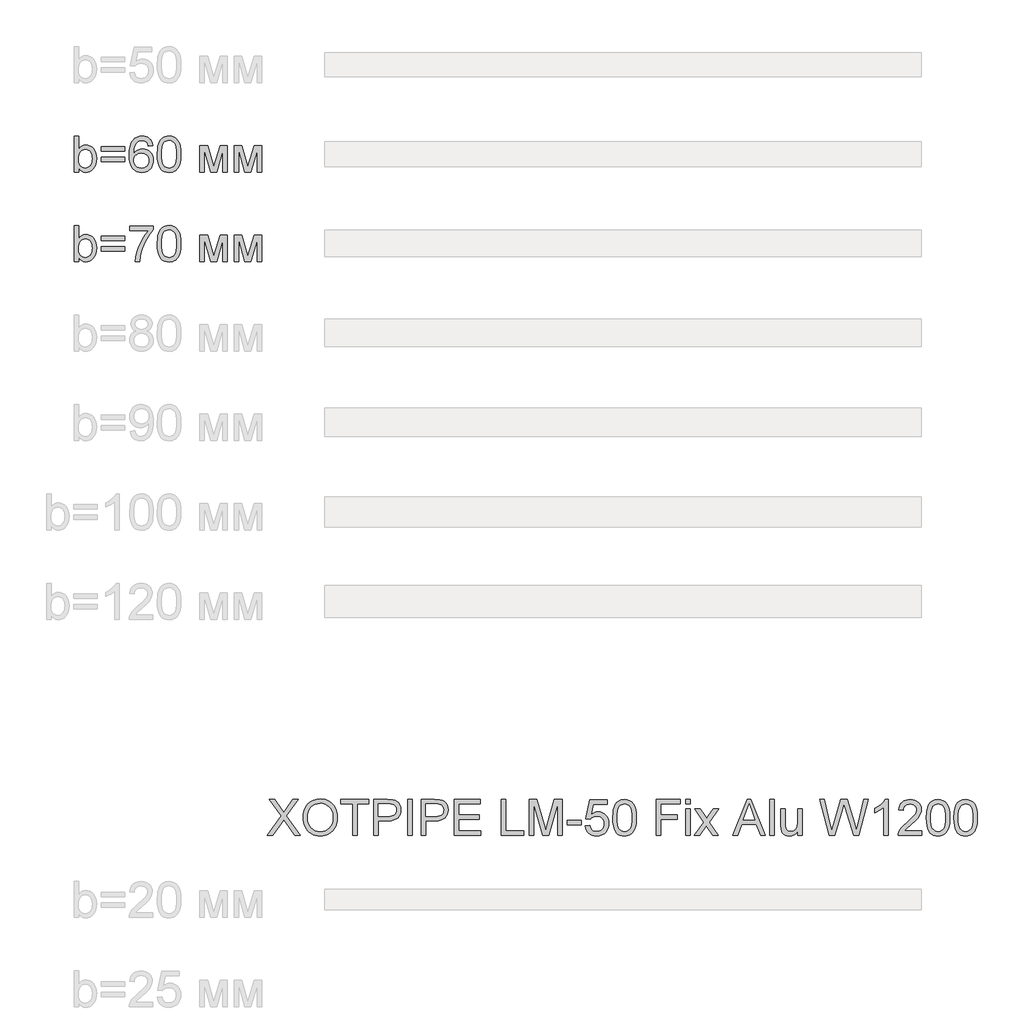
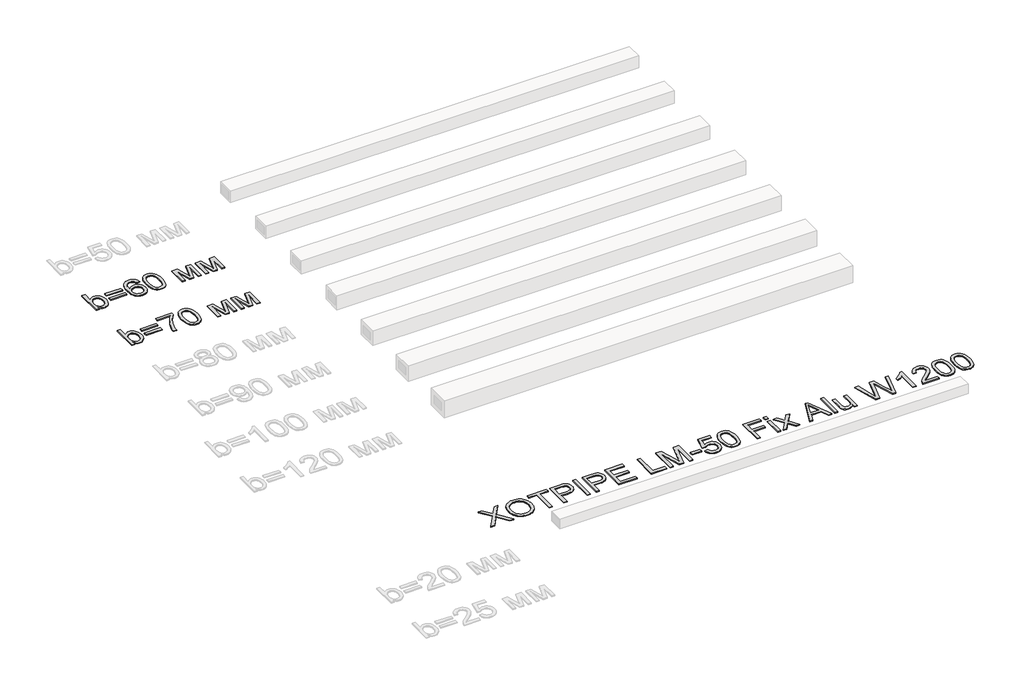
# One storey, part 83 of 86: 3 proxies.
"""IFC4 building model written with IfcOpenShell, lengths in millimetres."""

import ifcopenshell
import ifcopenshell.guid

model = None  # the IFC model being written
_history = None  # IfcOwnerHistory: only IFC2X3 demands one
_inside = {}  # id of a spatial element -> (the spatial element, [elements in it])
_under = {}  # id of a project, library or spatial element -> (it, [spatial elements below it])
_declared = {}  # id of a project -> (the project, [libraries it declares])
_typed = {}  # id of a type object -> (the type object, [elements of that type])
_made_of = {}  # id of a material, layer set ... -> (it, [elements and type objects made of it])


def new_model(schema):
    """Start an empty IFC model of exactly this schema.

    Asked for "IFC4X3", IfcOpenShell would pick the latest addendum, in which some entities
    have other attributes; the version numbers below select the first issue.
    IFC2X3 requires an IfcOwnerHistory on every rooted entity: one is made here for all.
    """
    global model, _history
    if schema == "IFC4X3":
        model = ifcopenshell.file(schema_version=(4, 3, 0, 0))
    else:
        model = ifcopenshell.file(schema=schema)
    _inside.clear()
    _under.clear()
    _declared.clear()
    _typed.clear()
    _made_of.clear()
    _history = None
    if model.schema == "IFC2X3":
        org = make("IfcOrganization", Name="unknown")
        user = make(
            "IfcPersonAndOrganization",
            ThePerson=make("IfcPerson", FamilyName="unknown"),
            TheOrganization=org,
        )
        app = make(
            "IfcApplication",
            ApplicationDeveloper=org,
            Version="unknown",
            ApplicationFullName="unknown",
            ApplicationIdentifier="unknown",
        )
        _history = make(
            "IfcOwnerHistory",
            OwningUser=user,
            OwningApplication=app,
            ChangeAction="ADDED",
            CreationDate=0,
        )
    return model


def make(cls, **values):
    """One entity of the class cls with the attributes given. An attribute that is None is left unset."""
    return model.create_entity(
        cls, **{name: value for name, value in values.items() if value is not None}
    )


def rooted(cls, **values):
    """An entity with a GlobalId (a new one), such as an element, a storey or a relation."""
    return make(cls, GlobalId=ifcopenshell.guid.new(), OwnerHistory=_history, **values)


def si_unit(unit_type, name, prefix=None):
    """IfcSIUnit, for example si_unit("LENGTHUNIT", "METRE", prefix="MILLI")."""
    return make("IfcSIUnit", UnitType=unit_type, Prefix=prefix, Name=name)


def assignment(units):
    """IfcUnitAssignment: the units of a project."""
    return None if units is None else make("IfcUnitAssignment", Units=units)


def point(xyz):
    """IfcCartesianPoint."""
    return None if xyz is None else make("IfcCartesianPoint", Coordinates=xyz)


def direction(xyz):
    """IfcDirection."""
    return None if xyz is None else make("IfcDirection", DirectionRatios=xyz)


def frame(location, z_axis=None, x_axis=None):
    """IfcAxis2Placement3D, a coordinate frame: its origin and axes. An axis left out is left unset."""
    return make(
        "IfcAxis2Placement3D",
        Location=point(location),
        Axis=direction(z_axis),
        RefDirection=direction(x_axis),
    )


def origin():
    """The frame at (0, 0, 0) with its axes left unset."""
    return frame((0.0, 0.0, 0.0))


def origin_with_axes():
    """The frame at (0, 0, 0) with the z axis (0, 0, 1) and the x axis (1, 0, 0) written out."""
    return frame((0.0, 0.0, 0.0), z_axis=(0.0, 0.0, 1.0), x_axis=(1.0, 0.0, 0.0))


def place(relative_to, where):
    """IfcLocalPlacement: puts the frame where relative to a parent placement (None: the world)."""
    return make(
        "IfcLocalPlacement", PlacementRelTo=relative_to, RelativePlacement=where
    )


def context(
    kind, dimensions, precision=None, world=None, true_north=None, identifier=None
):
    """IfcGeometricRepresentationContext, for example the 3D "Model" context."""
    return make(
        "IfcGeometricRepresentationContext",
        ContextIdentifier=identifier,
        ContextType=kind,
        CoordinateSpaceDimension=dimensions,
        Precision=precision,
        WorldCoordinateSystem=world,
        TrueNorth=true_north,
    )


def project(units=None, contexts=None):
    """IfcProject with its units and contexts."""
    return rooted(
        "IfcProject",
        Name="project",
        RepresentationContexts=contexts,
        UnitsInContext=assignment(units),
    )


def spatial(cls, under=None, at=None, **own):
    """A site, building, storey or space (cls), placed at a placement, below another one or the project."""
    s = rooted(cls, ObjectPlacement=at, **own)
    if under is not None:
        _under.setdefault(under.id(), (under, []))[1].append(s)
    return s


def polyline(points):
    """IfcPolyline through the points."""
    return make("IfcPolyline", Points=[point(p) for p in points])


def outline(outer, holes=None, kind="AREA"):
    """IfcArbitraryClosedProfileDef: a profile drawn as a closed curve; with holes, ...WithVoids."""
    if holes is None:
        return make("IfcArbitraryClosedProfileDef", ProfileType=kind, OuterCurve=outer)
    return make(
        "IfcArbitraryProfileDefWithVoids",
        ProfileType=kind,
        OuterCurve=outer,
        InnerCurves=holes,
    )


def extrude(swept, where, along, depth):
    """IfcExtrudedAreaSolid: the profile swept, set in the frame where, extruded along a direction by depth."""
    return make(
        "IfcExtrudedAreaSolid",
        SweptArea=swept,
        Position=where,
        ExtrudedDirection=direction(along),
        Depth=depth,
    )


def shape(context_of_items, identifier, shape_type, items):
    """IfcShapeRepresentation: the items that make up one representation, for example the "Body"."""
    return make(
        "IfcShapeRepresentation",
        ContextOfItems=context_of_items,
        RepresentationIdentifier=identifier,
        RepresentationType=shape_type,
        Items=items,
    )


def made_of(thing, what):
    """Note that an element or type object is made of a material, layer set ...; save() writes the relation."""
    if what is not None:
        _made_of.setdefault(what.id(), (what, []))[1].append(thing)
    return thing


def element(
    cls,
    number,
    at=None,
    inside=None,
    cuts=None,
    type_object=None,
    material=None,
    context=None,
    identifier="Body",
    shape_type=None,
    held_by="IfcProductDefinitionShape",
    body=None,
    shapes=None,
    **own,
):
    """One element of the class cls, such as IfcWall. Its Tag is "e" and its number.

    at: its placement. inside: the storey or other place that contains it. cuts: it is an
    opening in that element (IfcRelVoidsElement). A single representation is given by context,
    identifier, shape_type and body (its items); several are given by shapes. held_by: the class
    of the entity that holds the representations. save() writes the other relations.
    """
    e = rooted(cls, Tag="e%d" % number, ObjectPlacement=at, **own)
    if body is not None:
        shapes = [shape(context, identifier, shape_type, body)]
    if shapes is not None:
        e.Representation = make(held_by, Representations=shapes)
    if inside is not None:
        _inside.setdefault(inside.id(), (inside, []))[1].append(e)
    if cuts is not None:
        rooted(
            "IfcRelVoidsElement", RelatingBuildingElement=cuts, RelatedOpeningElement=e
        )
    if type_object is not None:
        _typed.setdefault(type_object.id(), (type_object, []))[1].append(e)
    return made_of(e, material)


def aggregate(whole, parts):
    """IfcRelAggregates: a whole, such as a stair, and the parts it consists of."""
    return rooted("IfcRelAggregates", RelatingObject=whole, RelatedObjects=parts)


def save(model, path):
    """Write the relations noted so far, then the file.

    IfcRelAggregates (storeys below a building ...), IfcRelContainedInSpatialStructure (elements
    in a storey), IfcRelDefinesByType, IfcRelAssociatesMaterial and IfcRelDeclares: one each for
    every whole, place, type object, material and project.
    """
    for whole, parts in _under.values():
        aggregate(whole, parts)
    for where, things in _inside.values():
        rooted(
            "IfcRelContainedInSpatialStructure",
            RelatedElements=things,
            RelatingStructure=where,
        )
    for kind, things in _typed.values():
        rooted("IfcRelDefinesByType", RelatedObjects=things, RelatingType=kind)
    for what, things in _made_of.values():
        rooted("IfcRelAssociatesMaterial", RelatedObjects=things, RelatingMaterial=what)
    for by, libraries in _declared.values():
        rooted("IfcRelDeclares", RelatingContext=by, RelatedDefinitions=libraries)
    model.write(path)


model = new_model("IFC4")

# Units and contexts
model_context = context("Model", 3, world=origin())
ifc_project = project(units=[si_unit("LENGTHUNIT", "METRE", prefix="MILLI")], contexts=[model_context])

# Site, building, storey
site = spatial("IfcSite", under=ifc_project)
building = spatial("IfcBuilding", under=site)
storey = spatial("IfcBuildingStorey", under=building, Name="Уровень 1", Elevation=0.0)

# Proxies
placement = place(None, origin())
element("IfcBuildingElementProxy", 1, Name="Текст модели 1", ObjectType="Текст модели 1", at=placement, inside=storey, context=model_context, shape_type="SweptSolid", body=[
    extrude(outline(polyline([(109771.0068445, 81669.2937088), (109695.6646119, 81669.2937088), (109695.6646119, 82272.0315697), (109771.0068445, 82272.0315697), (109771.0068445, 82048.5064694), (109795.7836969, 82080.3742473), (109823.7611226, 82103.1369457), (109854.9391217, 82116.7945648), (109889.3176942, 82121.3471045), (109928.1292447, 82117.2452202), (109964.8070796, 82104.9395675), (109997.2542716, 82085.2026984), (110023.3738932, 82058.8071653), (110043.8465263, 82026.0104854), (110059.3527524, 81987.0701762), (110069.1200193, 81943.6049185), (110072.375775, 81897.233393), (110069.0050562, 81843.7249568), (110058.8928999, 81796.6544555), (110042.039306, 81756.0218892), (110018.4442745, 81721.8272577), (109990.1219594, 81694.7235517), (109959.0865146, 81675.3637617), (109925.33794, 81663.7478877), (109888.8762358, 81659.8759297), (109853.3664262, 81664.8699278), (109821.8849245, 81679.8519221), (109794.4317306, 81704.8219125), (109771.0068445, 81739.7798991), (109771.0068445, 81669.2937088)]), holes=[polyline([(109771.0068445, 81893.7017259), (109776.1571925, 81830.8674811), (109782.5951274, 81807.065516), (109791.6082363, 81788.3403224), (109809.8643803, 81765.0993774), (109831.0819744, 81748.4987024), (109855.2610185, 81738.5382973), (109882.4015127, 81735.2181623), (109904.9342849, 81737.6645776), (109925.8851645, 81745.0038234), (109945.2541516, 81757.2358997), (109963.041246, 81774.3608066), (109977.9128757, 81796.3325588), (109988.5354683, 81823.105171), (109994.9090239, 81854.6786432), (109997.0335424, 81891.0529755), (109994.9963958, 81928.1170865), (109988.8849562, 81959.9940614), (109978.6992234, 81986.6839001), (109964.4391976, 82008.1866028), (109947.2912981, 82024.7320955), (109928.4419444, 82036.5503046), (109907.8911364, 82043.64123), (109885.6388742, 82046.0048719), (109863.106102, 82043.5584566), (109842.1552224, 82036.2192108), (109822.7862354, 82023.9871344), (109804.9991409, 82006.8622276), (109790.1275112, 81985.1112046), (109779.5049186, 81959.00078), (109773.1313631, 81928.5309538), (109771.0068445, 81893.7017259)])]), origin_with_axes(), (0.0, 0.0, 1.0), 20.0),
    extrude(outline(polyline([(110543.2647288, 82017.7515346), (110147.7180076, 82017.7515346), (110147.7180076, 82093.0937672), (110543.2647288, 82093.0937672), (110543.2647288, 82017.7515346)])), origin_with_axes(), (0.0, 0.0, 1.0), 20.0),
    extrude(outline(polyline([(110543.2647288, 81838.8137322), (110147.7180076, 81838.8137322), (110147.7180076, 81914.1559648), (110543.2647288, 81914.1559648), (110543.2647288, 81838.8137322)])), origin_with_axes(), (0.0, 0.0, 1.0), 20.0),
    extrude(outline(polyline([(111014.1536826, 82111.9293254), (110938.81145, 82102.5115463), (110926.6713442, 82139.8515688), (110910.2638072, 82165.3457911), (110894.0678024, 82179.0585925), (110876.0875699, 82188.8534506), (110856.3231097, 82194.7303655), (110834.7744218, 82196.6893371), (110799.7520559, 82192.1276003), (110766.7898291, 82178.4423901), (110738.4813096, 82149.6188358), (110715.3599262, 82109.9427626), (110706.3238247, 82084.6370799), (110699.7433355, 82053.8223643), (110693.949194, 81975.6658344), (110724.1706999, 82010.9273236), (110760.3886824, 82035.7777524), (110800.5797903, 82050.5114263), (110842.7206729, 82055.4226509), (110878.9202612, 82052.0657277), (110912.3239464, 82041.9949581), (110942.9317284, 82025.2103421), (110970.7436072, 82001.7118796), (110993.8557936, 81972.8975224), (111010.3644981, 81940.1652218), (111020.2697208, 81903.5149781), (111023.5714617, 81862.9467911), (111022.0171603, 81835.4798016), (111017.354256, 81808.9968965), (111009.5827489, 81783.4980757), (110998.7026388, 81758.9833392), (110985.1002021, 81736.3677936), (110969.1617146, 81716.5665452), (110950.8871765, 81699.5795941), (110930.2765877, 81685.4069402), (110907.7714067, 81674.2371231), (110883.8130918, 81666.2586823), (110858.4016429, 81661.4716179), (110831.5370602, 81659.8759297), (110786.6232671, 81664.1065727), (110746.0596787, 81676.7985015), (110709.8462948, 81697.9517162), (110677.9831154, 81727.5662168), (110652.0060481, 81766.8928021), (110633.4509999, 81817.1822709), (110622.3179711, 81878.4346231), (110618.6069614, 81950.6498587), (110622.7272398, 82031.6114888), (110635.0880748, 82100.7089245), (110655.6894665, 82157.9421659), (110669.0803712, 82182.1097138), (110684.531415, 82203.311213), (110715.7921875, 82233.3763691), (110752.0377611, 82254.8514805), (110793.2681357, 82267.7365474), (110839.4833113, 82272.0315697), (110874.1837805, 82269.3736223), (110905.5917059, 82261.39978), (110933.7070873, 82248.110043), (110958.529925, 82229.5044111), (110979.3888341, 82206.2082837), (110995.6124301, 82178.8470603), (111007.2007129, 82147.4207409), (111014.1536826, 82111.9293254)]), holes=[polyline([(110693.949194, 81864.1240134), (110698.3085957, 81830.7387224), (110711.3868006, 81798.8617475), (110731.6938867, 81771.4545389), (110757.739932, 81751.4785465), (110789.1754485, 81739.2832584), (110825.6509483, 81735.2181623), (110851.8395478, 81737.3242868), (110875.3702, 81743.64266), (110896.2429047, 81754.1732821), (110914.4576619, 81768.9161531), (110929.2327226, 81787.2734647), (110939.7863373, 81808.6474086), (110946.1185062, 81833.0379849), (110948.2292291, 81860.4451935), (110946.1460973, 81886.7809458), (110939.8967019, 81910.1644451), (110929.4810429, 81930.5956914), (110914.8991203, 81948.0746847), (110896.6291808, 81962.0771932), (110875.1494708, 81972.0789849), (110850.4599904, 81978.08006), (110822.5607396, 81980.0804183), (110796.7216279, 81978.08006), (110772.9150643, 81972.0789849), (110751.1410487, 81962.0771932), (110731.3995811, 81948.0746847), (110715.0150368, 81930.8256177), (110703.3117908, 81911.0841501), (110696.2898432, 81888.850282), (110693.949194, 81864.1240134)])]), origin_with_axes(), (0.0, 0.0, 1.0), 20.0),
    extrude(outline(polyline([(111089.4959153, 81965.8065969), (111095.0325393, 82062.2836501), (111101.9533193, 82103.1967265), (111111.6424114, 82139.2261694), (111124.0584287, 82170.6662845), (111139.1599846, 82197.8113772), (111156.9470791, 82220.6614476), (111177.4197121, 82239.2164957), (111200.6468616, 82253.5730906), (111226.6975054, 82263.8278012), (111255.5716435, 82269.9806276), (111287.2692759, 82272.0315697), (111333.6959837, 82267.1755274), (111375.2666491, 82252.6074004), (111410.0314977, 82228.8974058), (111436.0407547, 82196.6157607), (111455.6856533, 82156.0383766), (111471.3574262, 82107.4411651), (111481.6213339, 82045.7289604), (111485.0426365, 81965.8065969), (111479.5611947, 81869.8813667), (111472.7093926, 81829.106246), (111463.1168696, 81793.1227884), (111450.7974212, 81761.6688778), (111435.7648432, 81734.4823983), (111418.0191355, 81711.56335), (111397.560298, 81692.9117329), (111374.3055574, 81678.458569), (111348.1721402, 81668.1348805), (111319.1600463, 81661.9406674), (111287.2692759, 81659.8759297), (111245.7721868, 81663.4627792), (111208.9839873, 81674.2233275), (111176.9046773, 81692.1575748), (111149.5342569, 81717.265521), (111123.2674824, 81762.6529621), (111104.5055007, 81819.2056218), (111093.2483116, 81886.9235001), (111089.4959153, 81965.8065969)]), holes=[polyline([(111164.8381479, 81965.9537497), (111167.0454398, 81900.456959), (111173.6673158, 81847.440565), (111184.7037756, 81806.9045676), (111200.1548194, 81778.848967), (111218.8432248, 81759.7604899), (111239.5917693, 81746.1258635), (111262.400453, 81737.9450876), (111287.2692759, 81735.2181623), (111312.1380987, 81737.9542847), (111334.9467824, 81746.1626517), (111355.695327, 81759.8432634), (111374.3837323, 81778.9961198), (111389.8347761, 81807.0977057), (111400.871236, 81847.624506), (111407.4931119, 81900.5765206), (111409.7004039, 81965.9537497), (111407.5666883, 82029.7168965), (111401.1655416, 82081.79979), (111390.4969637, 82122.2024301), (111375.5609547, 82150.9248169), (111357.185249, 82170.9467945), (111336.1975812, 82185.248207), (111312.5979512, 82193.8290546), (111286.3863591, 82196.6893371), (111261.6462949, 82194.1693454), (111239.2238873, 82186.6093704), (111219.1191363, 82174.0094121), (111201.3320418, 82156.3694704), (111185.3659632, 82125.0995008), (111173.9616213, 82082.9402242), (111167.1190162, 82029.8916405), (111164.8381479, 81965.9537497)])]), origin_with_axes(), (0.0, 0.0, 1.0), 20.0),
    extrude(outline(polyline([(111805.2471251, 82111.9293254), (111934.8887402, 82111.9293254), (112034.8054901, 81757.5853876), (112142.5213382, 82111.9293254), (112266.7182998, 82111.9293254), (112266.7182998, 81669.2937088), (112191.3760672, 81669.2937088), (112191.3760672, 82025.6977857), (112083.0716078, 81669.2937088), (111984.1849275, 81669.2937088), (111880.5893577, 82042.7675103), (111880.5893577, 81669.2937088), (111805.2471251, 81669.2937088), (111805.2471251, 82111.9293254)])), origin_with_axes(), (0.0, 0.0, 1.0), 20.0),
    extrude(outline(polyline([(112379.7316487, 82111.9293254), (112509.3732638, 82111.9293254), (112609.2900137, 81757.5853876), (112717.0058619, 82111.9293254), (112841.2028235, 82111.9293254), (112841.2028235, 81669.2937088), (112765.8605909, 81669.2937088), (112765.8605909, 82025.6977857), (112657.5561315, 81669.2937088), (112558.6694512, 81669.2937088), (112455.0738813, 82042.7675103), (112455.0738813, 81669.2937088), (112379.7316487, 81669.2937088), (112379.7316487, 82111.9293254)])), origin_with_axes(), (0.0, 0.0, 1.0), 20.0),
])
element("IfcBuildingElementProxy", 2, Name="Текст модели 1", ObjectType="Текст модели 1", at=placement, inside=storey, context=model_context, shape_type="SweptSolid", body=[
    extrude(outline(polyline([(109771.0068445, 80169.2937088), (109695.6646119, 80169.2937088), (109695.6646119, 80772.0315697), (109771.0068445, 80772.0315697), (109771.0068445, 80548.5064694), (109795.7836969, 80580.3742473), (109823.7611226, 80603.1369457), (109854.9391217, 80616.7945648), (109889.3176942, 80621.3471045), (109928.1292447, 80617.2452202), (109964.8070796, 80604.9395675), (109997.2542716, 80585.2026984), (110023.3738932, 80558.8071653), (110043.8465263, 80526.0104854), (110059.3527524, 80487.0701762), (110069.1200193, 80443.6049185), (110072.375775, 80397.233393), (110069.0050562, 80343.7249568), (110058.8928999, 80296.6544555), (110042.039306, 80256.0218892), (110018.4442745, 80221.8272577), (109990.1219594, 80194.7235517), (109959.0865146, 80175.3637617), (109925.33794, 80163.7478877), (109888.8762358, 80159.8759297), (109853.3664262, 80164.8699278), (109821.8849245, 80179.8519221), (109794.4317306, 80204.8219125), (109771.0068445, 80239.7798991), (109771.0068445, 80169.2937088)]), holes=[polyline([(109771.0068445, 80393.7017259), (109776.1571925, 80330.8674811), (109782.5951274, 80307.065516), (109791.6082363, 80288.3403224), (109809.8643803, 80265.0993774), (109831.0819744, 80248.4987024), (109855.2610185, 80238.5382973), (109882.4015127, 80235.2181623), (109904.9342849, 80237.6645776), (109925.8851645, 80245.0038234), (109945.2541516, 80257.2358997), (109963.041246, 80274.3608066), (109977.9128757, 80296.3325588), (109988.5354683, 80323.105171), (109994.9090239, 80354.6786432), (109997.0335424, 80391.0529755), (109994.9963958, 80428.1170865), (109988.8849562, 80459.9940614), (109978.6992234, 80486.6839001), (109964.4391976, 80508.1866028), (109947.2912981, 80524.7320955), (109928.4419444, 80536.5503046), (109907.8911364, 80543.64123), (109885.6388742, 80546.0048719), (109863.106102, 80543.5584566), (109842.1552224, 80536.2192108), (109822.7862354, 80523.9871344), (109804.9991409, 80506.8622276), (109790.1275112, 80485.1112046), (109779.5049186, 80459.00078), (109773.1313631, 80428.5309538), (109771.0068445, 80393.7017259)])]), origin_with_axes(), (0.0, 0.0, 1.0), 20.0),
    extrude(outline(polyline([(110543.2647288, 80517.7515346), (110147.7180076, 80517.7515346), (110147.7180076, 80593.0937672), (110543.2647288, 80593.0937672), (110543.2647288, 80517.7515346)])), origin_with_axes(), (0.0, 0.0, 1.0), 20.0),
    extrude(outline(polyline([(110543.2647288, 80338.8137322), (110147.7180076, 80338.8137322), (110147.7180076, 80414.1559648), (110543.2647288, 80414.1559648), (110543.2647288, 80338.8137322)])), origin_with_axes(), (0.0, 0.0, 1.0), 20.0),
    extrude(outline(polyline([(110628.0247405, 80687.271558), (110628.0247405, 80762.6137906), (111023.5714617, 80762.6137906), (111023.5714617, 80701.6925322), (110967.193546, 80630.3418193), (110911.3674532, 80539.6037251), (110862.1264481, 80437.7555948), (110842.2378278, 80385.7692703), (110825.5037955, 80333.0747731), (110807.5511542, 80254.7526963), (110797.5447639, 80169.2937088), (110722.2025313, 80169.2937088), (110730.3511175, 80246.953598), (110752.1481257, 80339.2551906), (110768.0176352, 80388.6203558), (110787.0049447, 80437.0934072), (110809.1100541, 80484.6743447), (110834.3329634, 80531.3631685), (110889.5888391, 80616.5830326), (110948.2292291, 80687.271558), (110628.0247405, 80687.271558)])), origin_with_axes(), (0.0, 0.0, 1.0), 20.0),
    extrude(outline(polyline([(111089.4959153, 80465.8065969), (111095.0325393, 80562.2836501), (111101.9533193, 80603.1967265), (111111.6424114, 80639.2261694), (111124.0584287, 80670.6662845), (111139.1599846, 80697.8113772), (111156.9470791, 80720.6614476), (111177.4197121, 80739.2164957), (111200.6468616, 80753.5730906), (111226.6975054, 80763.8278012), (111255.5716435, 80769.9806276), (111287.2692759, 80772.0315697), (111333.6959837, 80767.1755274), (111375.2666491, 80752.6074004), (111410.0314977, 80728.8974058), (111436.0407547, 80696.6157607), (111455.6856533, 80656.0383766), (111471.3574262, 80607.4411651), (111481.6213339, 80545.7289604), (111485.0426365, 80465.8065969), (111479.5611947, 80369.8813667), (111472.7093926, 80329.106246), (111463.1168696, 80293.1227884), (111450.7974212, 80261.6688778), (111435.7648432, 80234.4823983), (111418.0191355, 80211.56335), (111397.560298, 80192.9117329), (111374.3055574, 80178.458569), (111348.1721402, 80168.1348805), (111319.1600463, 80161.9406674), (111287.2692759, 80159.8759297), (111245.7721868, 80163.4627792), (111208.9839873, 80174.2233275), (111176.9046773, 80192.1575748), (111149.5342569, 80217.265521), (111123.2674824, 80262.6529621), (111104.5055007, 80319.2056218), (111093.2483116, 80386.9235001), (111089.4959153, 80465.8065969)]), holes=[polyline([(111164.8381479, 80465.9537497), (111167.0454398, 80400.456959), (111173.6673158, 80347.440565), (111184.7037756, 80306.9045676), (111200.1548194, 80278.848967), (111218.8432248, 80259.7604899), (111239.5917693, 80246.1258635), (111262.400453, 80237.9450876), (111287.2692759, 80235.2181623), (111312.1380987, 80237.9542847), (111334.9467824, 80246.1626517), (111355.695327, 80259.8432634), (111374.3837323, 80278.9961198), (111389.8347761, 80307.0977057), (111400.871236, 80347.624506), (111407.4931119, 80400.5765206), (111409.7004039, 80465.9537497), (111407.5666883, 80529.7168965), (111401.1655416, 80581.79979), (111390.4969637, 80622.2024301), (111375.5609547, 80650.9248169), (111357.185249, 80670.9467945), (111336.1975812, 80685.248207), (111312.5979512, 80693.8290546), (111286.3863591, 80696.6893371), (111261.6462949, 80694.1693454), (111239.2238873, 80686.6093704), (111219.1191363, 80674.0094121), (111201.3320418, 80656.3694704), (111185.3659632, 80625.0995008), (111173.9616213, 80582.9402242), (111167.1190162, 80529.8916405), (111164.8381479, 80465.9537497)])]), origin_with_axes(), (0.0, 0.0, 1.0), 20.0),
    extrude(outline(polyline([(111805.2471251, 80611.9293254), (111934.8887402, 80611.9293254), (112034.8054901, 80257.5853876), (112142.5213382, 80611.9293254), (112266.7182998, 80611.9293254), (112266.7182998, 80169.2937088), (112191.3760672, 80169.2937088), (112191.3760672, 80525.6977857), (112083.0716078, 80169.2937088), (111984.1849275, 80169.2937088), (111880.5893577, 80542.7675103), (111880.5893577, 80169.2937088), (111805.2471251, 80169.2937088), (111805.2471251, 80611.9293254)])), origin_with_axes(), (0.0, 0.0, 1.0), 20.0),
    extrude(outline(polyline([(112379.7316487, 80611.9293254), (112509.3732638, 80611.9293254), (112609.2900137, 80257.5853876), (112717.0058619, 80611.9293254), (112841.2028235, 80611.9293254), (112841.2028235, 80169.2937088), (112765.8605909, 80169.2937088), (112765.8605909, 80525.6977857), (112657.5561315, 80169.2937088), (112558.6694512, 80169.2937088), (112455.0738813, 80542.7675103), (112455.0738813, 80169.2937088), (112379.7316487, 80169.2937088), (112379.7316487, 80611.9293254)])), origin_with_axes(), (0.0, 0.0, 1.0), 20.0),
])
element("IfcBuildingElementProxy", 3, Name="Текст модели 1", ObjectType="Текст модели 1", at=placement, inside=storey, context=model_context, shape_type="SweptSolid", body=[
    extrude(outline(polyline([(112931.546453, 70543.2937088), (113163.9007211, 70871.7387541), (112969.2175693, 71146.0315697), (113059.5693873, 71146.0315697), (113169.1982219, 70991.6682845), (113195.3546317, 70952.5624284), (113206.1335742, 70931.4827901), (113249.3964968, 70992.6983541), (113357.848109, 71146.0315697), (113449.5243022, 71146.0315697), (113254.8411503, 70870.8558373), (113487.1954185, 70543.2937088), (113396.8436005, 70543.2937088), (113242.0388569, 70761.6684611), (113209.8123941, 70806.9915229), (113174.3485698, 70757.2538772), (113023.2226462, 70543.2937088), (112931.546453, 70543.2937088)])), origin_with_axes(), (0.0, 0.0, 1.0), 20.0),
    extrude(outline(polyline([(113534.2843139, 70836.7163882), (113539.3059031, 70907.4141106), (113554.3706708, 70970.000035), (113579.478617, 71024.4741614), (113595.798782, 71048.6693004), (113614.6297416, 71070.8364899), (113657.7179203, 71107.8546156), (113706.6370286, 71134.2961341), (113761.3870665, 71150.1610451), (113821.9680341, 71155.4493488), (113862.517827, 71152.9661453), (113901.0258749, 71145.5165349), (113937.4921776, 71133.1005176), (113971.9167353, 71115.7180933), (114003.3338577, 71093.8934939), (114030.7778546, 71068.1509513), (114054.2487258, 71038.4904655), (114073.7464716, 71004.9120363), (114089.0687567, 70968.1790191), (114100.013246, 70929.0547689), (114106.5799397, 70887.5392858), (114108.7688375, 70843.6325697), (114106.4649765, 70799.1464394), (114099.5533936, 70757.0699362), (114088.0340886, 70717.4030601), (114071.9070616, 70680.145811), (114051.5539902, 70646.2822733), (114027.356552, 70616.7965314), (113999.3147469, 70591.6885853), (113967.428575, 70570.9584348), (113932.9534335, 70554.7348388), (113897.1447198, 70543.146556), (113860.0024339, 70536.1935863), (113821.5265757, 70533.8759297), (113780.2686099, 70536.4373081), (113741.2547244, 70544.1214433), (113704.4849189, 70556.9283352), (113669.9591937, 70574.857984), (113638.5788595, 70597.2160122), (113611.2452273, 70623.3080427), (113587.958297, 70653.1340755), (113568.7180686, 70686.6941105), (113553.6533009, 70722.64078), (113542.8927526, 70759.6267161), (113536.4364235, 70797.6519188), (113534.2843139, 70836.7163882)]), holes=[polyline([(113609.6265465, 70835.9806242), (113613.3927384, 70786.0314463), (113624.6913142, 70741.6924688), (113643.5222738, 70702.9636918), (113669.8856173, 70669.8451151), (113701.9327376, 70643.3208233), (113737.8150277, 70624.3749005), (113777.5324876, 70613.0073469), (113821.0851173, 70609.2181623), (113865.382708, 70613.0441351), (113905.5692175, 70624.5220533), (113941.6446456, 70643.6519171), (113973.6089925, 70670.4337263), (113999.7791979, 70704.2512787), (114018.4722018, 70744.488372), (114029.6880041, 70791.145006), (114033.4266049, 70844.2211809), (114031.8263182, 70878.7009209), (114027.0254582, 70910.9181866), (114019.0240248, 70940.872978), (114007.8220181, 70968.5652952), (113993.5435981, 70993.6318547), (113976.3129252, 71015.7093729), (113956.1299992, 71034.7978499), (113932.9948202, 71050.8972857), (113907.6247581, 71063.6765866), (113880.7371828, 71072.8046586), (113852.3320943, 71078.2815018), (113822.4094925, 71080.1071162), (113780.3697775, 71076.5892446), (113741.365089, 71066.0356298), (113705.3954269, 71048.446272), (113672.4607913, 71023.8211709), (113644.9708092, 70990.9739073), (113625.3351077, 70948.7180616), (113613.5536868, 70897.0536339), (113609.6265465, 70835.9806242)])]), origin_with_axes(), (0.0, 0.0, 1.0), 20.0),
    extrude(outline(polyline([(114363.0488726, 70543.2937088), (114363.0488726, 71070.6893371), (114165.275512, 71070.6893371), (114165.275512, 71146.0315697), (114636.1644658, 71146.0315697), (114636.1644658, 71070.6893371), (114438.3911052, 71070.6893371), (114438.3911052, 70543.2937088), (114363.0488726, 70543.2937088)])), origin_with_axes(), (0.0, 0.0, 1.0), 20.0),
    extrude(outline(polyline([(114720.9244775, 70543.2937088), (114720.9244775, 71146.0315697), (114944.302425, 71146.0315697), (114996.3209391, 71144.5968299), (115034.3599374, 71140.2926106), (115074.5142572, 71129.5688504), (115107.5684544, 71112.1128497), (115134.1847168, 71087.1336623), (115155.0252318, 71053.8403417), (115168.4897128, 71014.5689387), (115172.9778732, 70971.655504), (115169.9474452, 70934.6557723), (115160.8561614, 70900.6174907), (115145.7040218, 70869.5406592), (115124.4910262, 70841.4252777), (115095.3685678, 70818.1199533), (115056.4880394, 70801.473293), (115007.8494411, 70791.4852968), (114949.4527729, 70788.1559648), (114796.2667101, 70788.1559648), (114796.2667101, 70543.2937088), (114720.9244775, 70543.2937088)]), holes=[polyline([(114796.2667101, 70863.4981974), (114953.8673569, 70863.4981974), (114990.1037334, 70865.2272428), (115020.6747272, 70870.4143789), (115045.5803383, 70879.0596058), (115064.8205666, 70891.1629234), (115079.1771615, 70906.4024351), (115089.4318721, 70924.456244), (115095.5846984, 70945.3243502), (115097.6356406, 70969.0067536), (115092.7979923, 71002.8518972), (115078.2850476, 71031.39954), (115055.8994282, 71052.8838485), (115027.4437559, 71065.5389892), (114998.3810783, 71069.4017501), (114952.1015233, 71070.6893371), (114796.2667101, 71070.6893371), (114796.2667101, 70863.4981974)])]), origin_with_axes(), (0.0, 0.0, 1.0), 20.0),
    extrude(outline(polyline([(115285.9912221, 70543.2937088), (115285.9912221, 71146.0315697), (115361.3334547, 71146.0315697), (115361.3334547, 70543.2937088), (115285.9912221, 70543.2937088)])), origin_with_axes(), (0.0, 0.0, 1.0), 20.0),
    extrude(outline(polyline([(115512.0179199, 70543.2937088), (115512.0179199, 71146.0315697), (115735.3958674, 71146.0315697), (115787.4143815, 71144.5968299), (115825.4533798, 71140.2926106), (115865.6076996, 71129.5688504), (115898.6618969, 71112.1128497), (115925.2781592, 71087.1336623), (115946.1186742, 71053.8403417), (115959.5831553, 71014.5689387), (115964.0713156, 70971.655504), (115961.0408877, 70934.6557723), (115951.9496039, 70900.6174907), (115936.7974642, 70869.5406592), (115915.5844686, 70841.4252777), (115886.4620102, 70818.1199533), (115847.5814818, 70801.473293), (115798.9428835, 70791.4852968), (115740.5462153, 70788.1559648), (115587.3601525, 70788.1559648), (115587.3601525, 70543.2937088), (115512.0179199, 70543.2937088)]), holes=[polyline([(115587.3601525, 70863.4981974), (115744.9607993, 70863.4981974), (115781.1971758, 70865.2272428), (115811.7681696, 70870.4143789), (115836.6737807, 70879.0596058), (115855.914009, 70891.1629234), (115870.2706039, 70906.4024351), (115880.5253145, 70924.456244), (115886.6781409, 70945.3243502), (115888.729083, 70969.0067536), (115883.8914348, 71002.8518972), (115869.3784901, 71031.39954), (115846.9928706, 71052.8838485), (115818.5371983, 71065.5389892), (115789.4745207, 71069.4017501), (115743.1949657, 71070.6893371), (115587.3601525, 71070.6893371), (115587.3601525, 70863.4981974)])]), origin_with_axes(), (0.0, 0.0, 1.0), 20.0),
    extrude(outline(polyline([(116067.6668855, 70543.2937088), (116067.6668855, 71146.0315697), (116500.884723, 71146.0315697), (116500.884723, 71070.6893371), (116143.0091181, 71070.6893371), (116143.0091181, 70891.7515346), (116482.0491648, 70891.7515346), (116482.0491648, 70816.409302), (116143.0091181, 70816.409302), (116143.0091181, 70618.6359414), (116510.302502, 70618.6359414), (116510.302502, 70543.2937088), (116067.6668855, 70543.2937088)])), origin_with_axes(), (0.0, 0.0, 1.0), 20.0),
    extrude(outline(polyline([(116858.7603279, 70543.2937088), (116858.7603279, 71146.0315697), (116934.1025605, 71146.0315697), (116934.1025605, 70618.6359414), (117235.4714909, 70618.6359414), (117235.4714909, 70543.2937088), (116858.7603279, 70543.2937088)])), origin_with_axes(), (0.0, 0.0, 1.0), 20.0),
    extrude(outline(polyline([(117320.2315026, 70543.2937088), (117320.2315026, 71146.0315697), (117449.8731177, 71146.0315697), (117573.1871625, 70721.2014417), (117598.0559854, 70632.4683044), (117624.9849474, 70728.5590816), (117746.238853, 71146.0315697), (117875.8804681, 71146.0315697), (117875.8804681, 70543.2937088), (117800.5382355, 70543.2937088), (117800.5382355, 71070.6893371), (117649.1180063, 70543.2937088), (117546.9939645, 70543.2937088), (117395.5737352, 71070.6893371), (117395.5737352, 70543.2937088), (117320.2315026, 70543.2937088)])), origin_with_axes(), (0.0, 0.0, 1.0), 20.0),
    extrude(outline(polyline([(117960.6404798, 70722.2315113), (117960.6404798, 70797.5737439), (118196.0849567, 70797.5737439), (118196.0849567, 70722.2315113), (117960.6404798, 70722.2315113)])), origin_with_axes(), (0.0, 0.0, 1.0), 20.0),
    extrude(outline(polyline([(118262.0094103, 70703.3959531), (118337.3516429, 70712.8137322), (118342.9802374, 70688.5933013), (118351.1840059, 70667.5826409), (118361.9629484, 70649.7817508), (118375.3170648, 70635.1906312), (118391.218764, 70623.8276761), (118409.6404549, 70615.7112795), (118430.5821375, 70610.8414416), (118454.0438118, 70609.2181623), (118482.7386074, 70611.4760381), (118508.0488887, 70618.2496653), (118529.9746556, 70629.539044), (118548.5159081, 70645.3441743), (118563.2587791, 70664.8833067), (118573.7894012, 70687.3746922), (118580.1077745, 70712.8183307), (118582.2138989, 70741.2142222), (118580.2411317, 70768.0512138), (118574.3228301, 70791.9083611), (118564.4589941, 70812.7856644), (118550.6496237, 70830.6831234), (118532.8487337, 70845.0397183), (118511.0103387, 70855.2944289), (118485.1344389, 70861.4472553), (118455.2210341, 70863.4981974), (118418.6719579, 70860.2240476), (118389.0758514, 70850.4015984), (118365.4394332, 70835.3552248), (118346.769422, 70816.409302), (118271.4271894, 70825.8270811), (118337.3516429, 71136.6137906), (118629.3027943, 71136.6137906), (118629.3027943, 71061.271558), (118398.2729013, 71061.271558), (118366.0464385, 70895.2832018), (118392.6351097, 70914.3394891), (118419.8675744, 70927.951123), (118447.7438326, 70936.1181032), (118476.2638843, 70938.84043), (118512.9555148, 70935.4651127), (118546.658104, 70925.3391608), (118577.3716521, 70908.4625743), (118605.096159, 70884.8353531), (118628.047397, 70855.9014342), (118644.4411384, 70823.1047543), (118654.2773832, 70786.4453135), (118657.5561315, 70745.9231117), (118654.6038785, 70706.8908321), (118645.7471195, 70670.5808791), (118630.9858544, 70636.993253), (118610.3200833, 70606.1279536), (118579.0133255, 70574.5176931), (118542.4826434, 70551.9389357), (118500.728037, 70538.3916812), (118453.7495062, 70533.8759297), (118414.8689778, 70536.777599), (118379.7500428, 70545.4826067), (118348.3927013, 70559.9909529), (118320.7969531, 70580.3026375), (118297.8365181, 70605.4059852), (118280.3851159, 70634.2893203), (118268.4427467, 70666.952643), (118262.0094103, 70703.3959531)])), origin_with_axes(), (0.0, 0.0, 1.0), 20.0),
    extrude(outline(polyline([(118723.480585, 70839.8065969), (118729.0172091, 70936.2836501), (118735.9379891, 70977.1967265), (118745.6270811, 71013.2261694), (118758.0430985, 71044.6662845), (118773.1446544, 71071.8113772), (118790.9317488, 71094.6614476), (118811.4043819, 71113.2164957), (118834.6315313, 71127.5730906), (118860.6821751, 71137.8278012), (118889.5563132, 71143.9806276), (118921.2539456, 71146.0315697), (118967.6806534, 71141.1755274), (119009.2513189, 71126.6074004), (119044.0161674, 71102.8974058), (119070.0254245, 71070.6157607), (119089.670323, 71030.0383766), (119105.342096, 70981.4411651), (119115.6060037, 70919.7289604), (119119.0273062, 70839.8065969), (119113.5458645, 70743.8813667), (119106.6940624, 70703.106246), (119097.1015393, 70667.1227884), (119084.782091, 70635.6688778), (119069.749513, 70608.4823983), (119052.0038052, 70585.56335), (119031.5449678, 70566.9117329), (119008.2902272, 70552.458569), (118982.1568099, 70542.1348805), (118953.1447161, 70535.9406674), (118921.2539456, 70533.8759297), (118879.7568566, 70537.4627792), (118842.9686571, 70548.2233275), (118810.8893471, 70566.1575748), (118783.5189266, 70591.265521), (118757.2521522, 70636.6529621), (118738.4901704, 70693.2056218), (118727.2329814, 70760.9235001), (118723.480585, 70839.8065969)]), holes=[polyline([(118798.8228176, 70839.9537497), (118801.0301096, 70774.456959), (118807.6519855, 70721.440565), (118818.6884454, 70680.9045676), (118834.1394892, 70652.848967), (118852.8278945, 70633.7604899), (118873.5764391, 70620.1258635), (118896.3851228, 70611.9450876), (118921.2539456, 70609.2181623), (118946.1227685, 70611.9542847), (118968.9314522, 70620.1626517), (118989.6799967, 70633.8432634), (119008.3684021, 70652.9961198), (119023.8194459, 70681.0977057), (119034.8559057, 70721.624506), (119041.4777817, 70774.5765206), (119043.6850736, 70839.9537497), (119041.5513581, 70903.7168965), (119035.1502113, 70955.79979), (119024.4816335, 70996.2024301), (119009.5456245, 71024.9248169), (118991.1699188, 71044.9467945), (118970.182251, 71059.248207), (118946.582621, 71067.8290546), (118920.3710288, 71070.6893371), (118895.6309647, 71068.1693454), (118873.2085571, 71060.6093704), (118853.103806, 71048.0094121), (118835.3167116, 71030.3694704), (118819.350633, 70999.0995008), (118807.9462911, 70956.9402242), (118801.103686, 70903.8916405), (118798.8228176, 70839.9537497)])]), origin_with_axes(), (0.0, 0.0, 1.0), 20.0),
    extrude(outline(polyline([(119448.6495739, 70543.2937088), (119448.6495739, 71146.0315697), (119853.6140742, 71146.0315697), (119853.6140742, 71070.6893371), (119523.9918065, 71070.6893371), (119523.9918065, 70891.7515346), (119806.5251788, 70891.7515346), (119806.5251788, 70816.409302), (119523.9918065, 70816.409302), (119523.9918065, 70543.2937088), (119448.6495739, 70543.2937088)])), origin_with_axes(), (0.0, 0.0, 1.0), 20.0),
    extrude(outline(polyline([(119947.791865, 70543.2937088), (119947.791865, 70985.9293254), (120023.1340976, 70985.9293254), (120023.1340976, 70543.2937088), (119947.791865, 70543.2937088)])), origin_with_axes(), (0.0, 0.0, 1.0), 20.0),
    extrude(outline(polyline([(119947.791865, 71070.6893371), (119947.791865, 71146.0315697), (120023.1340976, 71146.0315697), (120023.1340976, 71070.6893371), (119947.791865, 71070.6893371)])), origin_with_axes(), (0.0, 0.0, 1.0), 20.0),
    extrude(outline(polyline([(120089.0585511, 70543.2937088), (120250.0437122, 70765.7887395), (120098.4763302, 70985.9293254), (120189.1224538, 70985.9293254), (120262.2573945, 70879.9793108), (120296.3968436, 70829.9473594), (120325.974556, 70870.8558373), (120409.2630397, 70985.9293254), (120499.9091633, 70985.9293254), (120340.6898358, 70765.7887395), (120494.0230514, 70543.2937088), (120403.3769278, 70543.2937088), (120311.1121234, 70677.0556022), (120294.1895516, 70701.4829667), (120179.7046747, 70543.2937088), (120089.0585511, 70543.2937088)])), origin_with_axes(), (0.0, 0.0, 1.0), 20.0),
    extrude(outline(polyline([(120734.6178763, 70543.2937088), (120975.2127011, 71146.0315697), (121039.3713211, 71146.0315697), (121279.9661459, 70543.2937088), (121200.3564822, 70543.2937088), (121131.3418199, 70731.6492903), (120883.0950495, 70731.6492903), (120814.22754, 70543.2937088), (120734.6178763, 70543.2937088)]), holes=[polyline([(120910.7597756, 70806.9915229), (121103.8242466, 70806.9915229), (121049.5248641, 70955.1743906), (121007.2920111, 71070.6893371), (120969.7680476, 70968.1238368), (120910.7597756, 70806.9915229)])]), origin_with_axes(), (0.0, 0.0, 1.0), 20.0),
    extrude(outline(polyline([(121351.0409474, 70543.2937088), (121351.0409474, 71146.0315697), (121426.38318, 71146.0315697), (121426.38318, 70543.2937088), (121351.0409474, 70543.2937088)])), origin_with_axes(), (0.0, 0.0, 1.0), 20.0),
    extrude(outline(polyline([(121821.9299012, 70543.2937088), (121821.9299012, 70619.3717054), (121794.6698454, 70581.9673035), (121762.9216292, 70555.2498736), (121726.6852527, 70539.2194157), (121685.9607158, 70533.8759297), (121649.2644868, 70537.6283261), (121615.1066435, 70548.8855151), (121586.4486361, 70565.8080869), (121566.2519146, 70586.5566314), (121552.6586748, 70611.7565481), (121543.8111129, 70642.0332363), (121539.3965289, 70712.0779682), (121539.3965289, 70985.9293254), (121614.7387615, 70985.9293254), (121614.7387615, 70747.5417925), (121615.8791957, 70699.8642859), (121619.3004983, 70670.7280319), (121630.2817758, 70645.105051), (121649.0989399, 70625.6256993), (121674.5011916, 70613.3200466), (121705.2377323, 70609.2181623), (121737.7401066, 70613.4120171), (121768.1455535, 70625.9935813), (121793.2167115, 70645.8040268), (121809.716219, 70671.6845251), (121818.8764806, 70707.1299554), (121821.9299012, 70755.6351964), (121821.9299012, 70985.9293254), (121897.2721338, 70985.9293254), (121897.2721338, 70543.2937088), (121821.9299012, 70543.2937088)])), origin_with_axes(), (0.0, 0.0, 1.0), 20.0),
    extrude(outline(polyline([(122353.5929606, 70543.2937088), (122189.2232852, 71146.0315697), (122266.9199626, 71146.0315697), (122362.2749757, 70749.8962373), (122391.7055353, 70627.6122621), (122423.1962341, 70735.7695687), (122542.6843062, 71146.0315697), (122654.6675855, 71146.0315697), (122741.4877364, 70848.6357648), (122778.6806061, 70738.2711662), (122806.0878147, 70627.6122621), (122834.6354575, 70746.3645701), (122930.8733875, 71146.0315697), (123008.5700649, 71146.0315697), (122844.0532366, 70543.2937088), (122763.5606561, 70543.2937088), (122619.0566084, 71008.2965507), (122598.896675, 71073.1909347), (122576.2351441, 70995.0527989), (122444.5333898, 70543.2937088), (122353.5929606, 70543.2937088)])), origin_with_axes(), (0.0, 0.0, 1.0), 20.0),
    extrude(outline(polyline([(123338.1923325, 70543.2937088), (123262.8500999, 70543.2937088), (123262.8500999, 71013.0054402), (123231.3961893, 70987.5664003), (123191.4809929, 70962.1641485), (123149.5792336, 70939.9624701), (123112.1656347, 70924.1251502), (123112.1656347, 70995.3471045), (123171.3394536, 71027.5367791), (123222.6038096, 71065.8332947), (123263.0156468, 71106.5578316), (123289.6319092, 71146.0315697), (123338.1923325, 71146.0315697), (123338.1923325, 70543.2937088)])), origin_with_axes(), (0.0, 0.0, 1.0), 20.0),
    extrude(outline(polyline([(123903.2590771, 70618.6359414), (123903.2590771, 70543.2937088), (123507.7123559, 70543.2937088), (123509.3678249, 70569.8180007), (123515.8057598, 70595.2386465), (123534.3838006, 70635.8344247), (123561.57028, 70675.2161923), (123600.8968653, 70716.4373698), (123655.8952236, 70762.5513779), (123737.1971445, 70834.7666136), (123785.9782971, 70888.0727147), (123800.2061332, 70909.8513288), (123810.3688733, 70931.3356373), (123816.4665174, 70952.5256402), (123818.4990654, 70973.4213376), (123816.5814805, 70993.0800317), (123810.8287258, 71011.1476362), (123801.2408013, 71027.624151), (123787.817707, 71042.5095763), (123771.304404, 71054.8382216), (123752.4458532, 71063.6443969), (123731.2420547, 71068.928102), (123707.6930085, 71070.6893371), (123682.8839664, 71068.9694888), (123660.6960836, 71063.8099438), (123641.12936, 71055.2107021), (123624.1837956, 71043.1717638), (123610.4755927, 71028.0977991), (123600.6209538, 71010.3934781), (123594.6198787, 70990.0588008), (123592.4723676, 70967.0937672), (123517.130135, 70976.5115463), (123523.6094566, 71015.4058703), (123535.395476, 71049.3889696), (123552.4881932, 71078.4608442), (123574.8876082, 71102.6214943), (123602.0786862, 71121.6134023), (123633.5463924, 71135.1790508), (123669.2907267, 71143.31844), (123709.3116893, 71146.0315697), (123749.6913368, 71143.0149373), (123785.6288092, 71133.9650403), (123817.1241065, 71118.8818785), (123844.1772287, 71097.7654519), (123865.905259, 71072.1792592), (123881.4252807, 71043.6867986), (123890.7372937, 71012.2880703), (123893.841298, 70977.9830743), (123890.4935719, 70941.9490329), (123880.4503934, 70906.5403908), (123862.6265108, 70870.5247435), (123835.936672, 70832.6696862), (123793.3911193, 70787.4753831), (123728.0000946, 70729.4419984), (123641.3270966, 70656.9692453), (123607.3348002, 70618.6359414), (123903.2590771, 70618.6359414)])), origin_with_axes(), (0.0, 0.0, 1.0), 20.0),
    extrude(outline(polyline([(123978.6013097, 70839.8065969), (123984.1379338, 70936.2836501), (123991.0587138, 70977.1967265), (124000.7478058, 71013.2261694), (124013.1638232, 71044.6662845), (124028.2653791, 71071.8113772), (124046.0524735, 71094.6614476), (124066.5251066, 71113.2164957), (124089.7522561, 71127.5730906), (124115.8028998, 71137.8278012), (124144.6770379, 71143.9806276), (124176.3746703, 71146.0315697), (124222.8013781, 71141.1755274), (124264.3720436, 71126.6074004), (124299.1368921, 71102.8974058), (124325.1461492, 71070.6157607), (124344.7910477, 71030.0383766), (124360.4628207, 70981.4411651), (124370.7267284, 70919.7289604), (124374.1480309, 70839.8065969), (124368.6665892, 70743.8813667), (124361.8147871, 70703.106246), (124352.222264, 70667.1227884), (124339.9028157, 70635.6688778), (124324.8702377, 70608.4823983), (124307.12453, 70585.56335), (124286.6656925, 70566.9117329), (124263.4109519, 70552.458569), (124237.2775346, 70542.1348805), (124208.2654408, 70535.9406674), (124176.3746703, 70533.8759297), (124134.8775813, 70537.4627792), (124098.0893818, 70548.2233275), (124066.0100718, 70566.1575748), (124038.6396513, 70591.265521), (124012.3728769, 70636.6529621), (123993.6108951, 70693.2056218), (123982.3537061, 70760.9235001), (123978.6013097, 70839.8065969)]), holes=[polyline([(124053.9435423, 70839.9537497), (124056.1508343, 70774.456959), (124062.7727102, 70721.440565), (124073.8091701, 70680.9045676), (124089.2602139, 70652.848967), (124107.9486192, 70633.7604899), (124128.6971638, 70620.1258635), (124151.5058475, 70611.9450876), (124176.3746703, 70609.2181623), (124201.2434932, 70611.9542847), (124224.0521769, 70620.1626517), (124244.8007214, 70633.8432634), (124263.4891268, 70652.9961198), (124278.9401706, 70681.0977057), (124289.9766304, 70721.624506), (124296.5985064, 70774.5765206), (124298.8057983, 70839.9537497), (124296.6720828, 70903.7168965), (124290.270936, 70955.79979), (124279.6023582, 70996.2024301), (124264.6663492, 71024.9248169), (124246.2906435, 71044.9467945), (124225.3029757, 71059.248207), (124201.7033457, 71067.8290546), (124175.4917536, 71070.6893371), (124150.7516894, 71068.1693454), (124128.3292818, 71060.6093704), (124108.2245307, 71048.0094121), (124090.4374363, 71030.3694704), (124074.4713577, 70999.0995008), (124063.0670158, 70956.9402242), (124056.2244107, 70903.8916405), (124053.9435423, 70839.9537497)])]), origin_with_axes(), (0.0, 0.0, 1.0), 20.0),
    extrude(outline(polyline([(124440.0724845, 70839.8065969), (124445.6091085, 70936.2836501), (124452.5298885, 70977.1967265), (124462.2189806, 71013.2261694), (124474.6349979, 71044.6662845), (124489.7365538, 71071.8113772), (124507.5236483, 71094.6614476), (124527.9962813, 71113.2164957), (124551.2234308, 71127.5730906), (124577.2740746, 71137.8278012), (124606.1482127, 71143.9806276), (124637.8458451, 71146.0315697), (124684.2725529, 71141.1755274), (124725.8432183, 71126.6074004), (124760.6080669, 71102.8974058), (124786.6173239, 71070.6157607), (124806.2622225, 71030.0383766), (124821.9339955, 70981.4411651), (124832.1979031, 70919.7289604), (124835.6192057, 70839.8065969), (124830.137764, 70743.8813667), (124823.2859618, 70703.106246), (124813.6934388, 70667.1227884), (124801.3739905, 70635.6688778), (124786.3414124, 70608.4823983), (124768.5957047, 70585.56335), (124748.1368672, 70566.9117329), (124724.8821266, 70552.458569), (124698.7487094, 70542.1348805), (124669.7366155, 70535.9406674), (124637.8458451, 70533.8759297), (124596.348756, 70537.4627792), (124559.5605565, 70548.2233275), (124527.4812465, 70566.1575748), (124500.1108261, 70591.265521), (124473.8440516, 70636.6529621), (124455.0820699, 70693.2056218), (124443.8248808, 70760.9235001), (124440.0724845, 70839.8065969)]), holes=[polyline([(124515.4147171, 70839.9537497), (124517.6220091, 70774.456959), (124524.243885, 70721.440565), (124535.2803448, 70680.9045676), (124550.7313886, 70652.848967), (124569.419794, 70633.7604899), (124590.1683385, 70620.1258635), (124612.9770222, 70611.9450876), (124637.8458451, 70609.2181623), (124662.714668, 70611.9542847), (124685.5233517, 70620.1626517), (124706.2718962, 70633.8432634), (124724.9603015, 70652.9961198), (124740.4113453, 70681.0977057), (124751.4478052, 70721.624506), (124758.0696811, 70774.5765206), (124760.2769731, 70839.9537497), (124758.1432575, 70903.7168965), (124751.7421108, 70955.79979), (124741.0735329, 70996.2024301), (124726.1375239, 71024.9248169), (124707.7618183, 71044.9467945), (124686.7741504, 71059.248207), (124663.1745205, 71067.8290546), (124636.9629283, 71070.6893371), (124612.2228641, 71068.1693454), (124589.8004565, 71060.6093704), (124569.6957055, 71048.0094121), (124551.908611, 71030.3694704), (124535.9425324, 70999.0995008), (124524.5381906, 70956.9402242), (124517.6955855, 70903.8916405), (124515.4147171, 70839.9537497)])]), origin_with_axes(), (0.0, 0.0, 1.0), 20.0),
])

save(model, "model.ifc")
